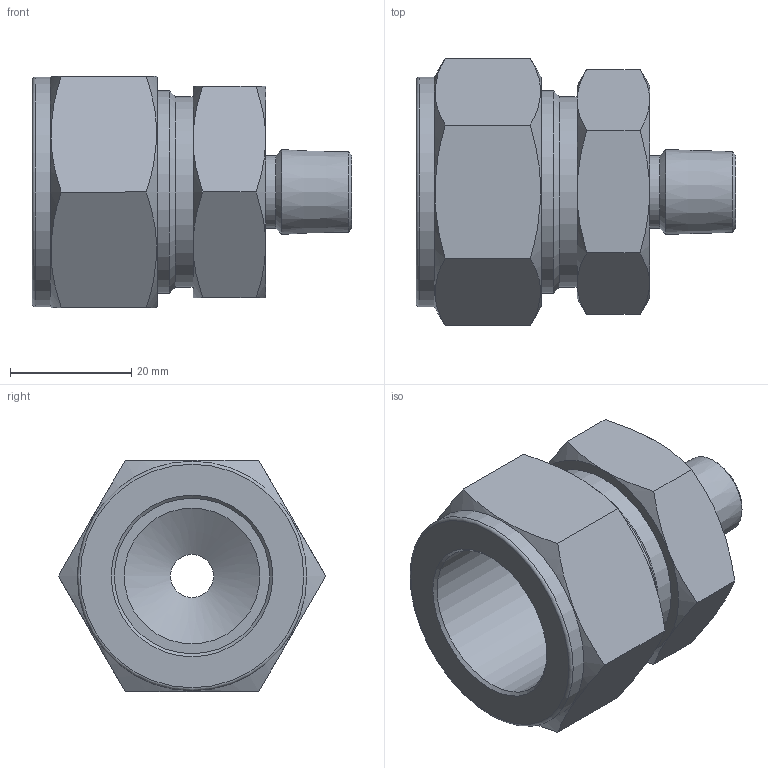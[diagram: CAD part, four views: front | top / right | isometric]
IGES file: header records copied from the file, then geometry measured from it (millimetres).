
Global section: file name: No Iges File Name specified; native system: Autodesk Inventor 2012; preprocessor: AutoDesk Inventor Iges Exporter R2012; author: 硅己绕,, ; organization: 11; date: 20150603.093409; units: millimetre
Bounding box: 52.66 x 43.99 x 38.1 mm (x, y, z)
Volume: 26713 mm3; surface area: 10994.3 mm2
Topology: 1 solids, 1 shells, 47 faces, 98 edges, 57 vertices
Faces by surface type: plane 18, cone 18, revolution 6, cylinder 4, torus 1
Full cylindrical faces by diameter (mm): 12 x1, 31.45 x1, 33.34 x1, 37.8 x1
